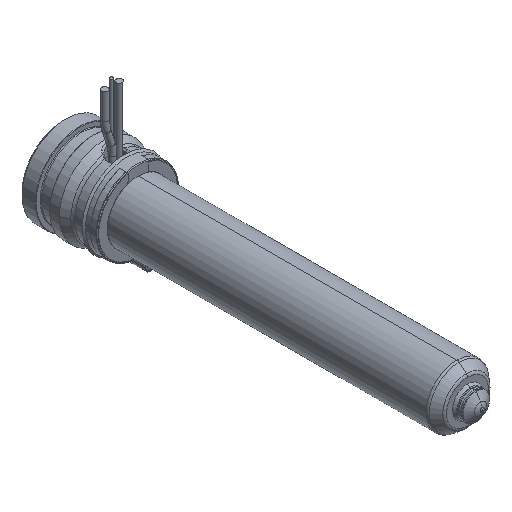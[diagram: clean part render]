
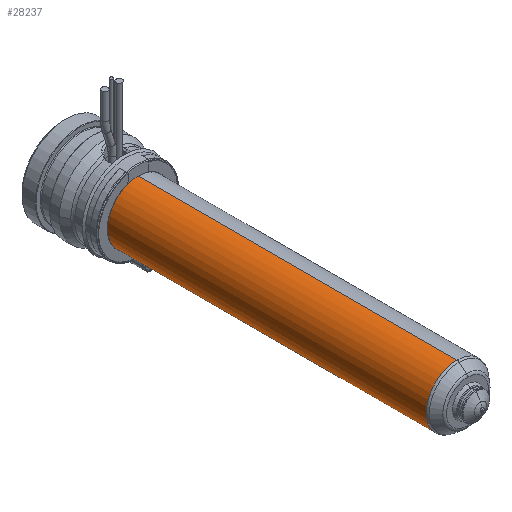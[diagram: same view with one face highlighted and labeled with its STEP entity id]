
A CAD part, isometric view. The second image highlights one B-rep face of the part: STEP entity #28237.
In plain terms, the highlighted cylindrical face has radius 9 mm (diameter 18 mm), a partial arc.
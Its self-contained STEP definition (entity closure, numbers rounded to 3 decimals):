
#27626=CARTESIAN_POINT('',(0.,-115.836,0.));
#27627=DIRECTION('',(0.,-1.,0.));
#27628=DIRECTION('',(0.,0.,1.));
#27629=AXIS2_PLACEMENT_3D('',#27626,#27627,#27628);
#27634=CARTESIAN_POINT('',(0.,-22.,0.));
#27635=DIRECTION('',(0.,-1.,0.));
#27636=DIRECTION('',(0.,0.,1.));
#27637=AXIS2_PLACEMENT_3D('',#27634,#27635,#27636);
#27642=DIRECTION('',(0.,-1.,0.));
#27643=VECTOR('',#27642,93.836);
#27644=CARTESIAN_POINT('',(0.,-22.,9.));
#27645=LINE('',#27644,#27643);
#27657=DIRECTION('',(0.,-1.,0.));
#27658=VECTOR('',#27657,93.836);
#27659=CARTESIAN_POINT('',(0.,-22.,-9.));
#27660=LINE('',#27659,#27658);
#27854=CARTESIAN_POINT('',(0.,-22.,9.));
#27855=CARTESIAN_POINT('',(0.,-115.836,9.));
#27856=VERTEX_POINT('',#27854);
#27857=VERTEX_POINT('',#27855);
#27880=CARTESIAN_POINT('',(0.,-22.,-9.));
#27881=CARTESIAN_POINT('',(0.,-115.836,-9.));
#27882=VERTEX_POINT('',#27880);
#27883=VERTEX_POINT('',#27881);
#28223=CARTESIAN_POINT('',(0.,-12.7,0.));
#28224=DIRECTION('',(0.,-1.,0.));
#28225=DIRECTION('',(0.,0.,1.));
#28226=AXIS2_PLACEMENT_3D('',#28223,#28224,#28225);
#28227=CYLINDRICAL_SURFACE('',#28226,9.);
#28229=ORIENTED_EDGE('',*,*,#28228,.T.);
#28230=ORIENTED_EDGE('',*,*,#28218,.T.);
#28232=ORIENTED_EDGE('',*,*,#28231,.F.);
#28234=ORIENTED_EDGE('',*,*,#28233,.F.);
#28235=EDGE_LOOP('',(#28229,#28230,#28232,#28234));
#28236=FACE_OUTER_BOUND('',#28235,.F.);
#28237=ADVANCED_FACE('',(#28236),#28227,.T.);
#27630=CIRCLE('',#27629,9.);
#27638=CIRCLE('',#27637,9.);
#28218=EDGE_CURVE('',#27857,#27883,#27630,.T.);
#28228=EDGE_CURVE('',#27856,#27857,#27645,.T.);
#28231=EDGE_CURVE('',#27882,#27883,#27660,.T.);
#28233=EDGE_CURVE('',#27856,#27882,#27638,.T.);
